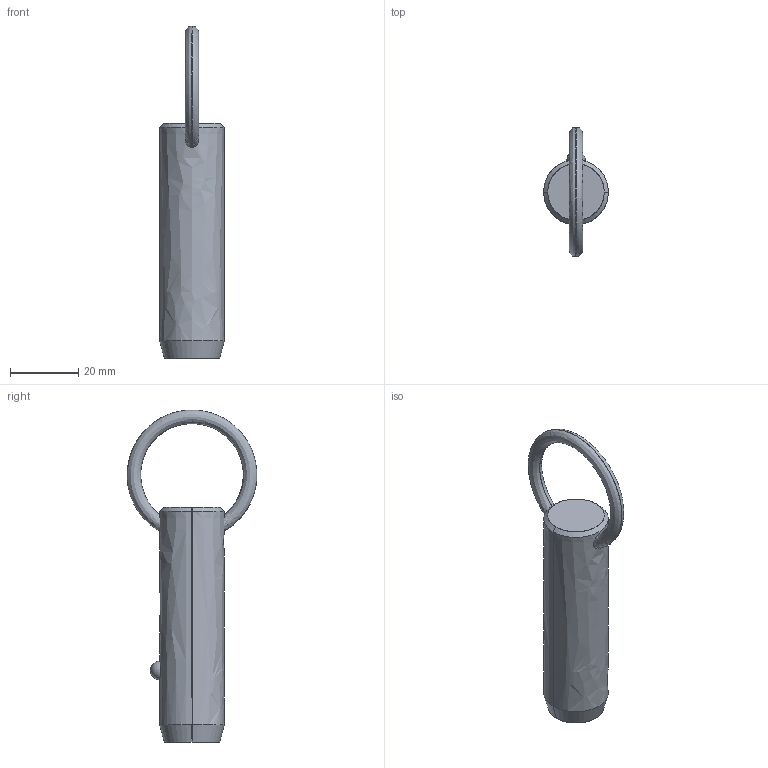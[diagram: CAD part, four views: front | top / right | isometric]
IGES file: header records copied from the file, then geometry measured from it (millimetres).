
Start section: SolidWorks IGES file using analytic representation for surfaces
Global section: file name: C:\Users\liam_\OneDrive\Documents\WORK\Work for WixRoyd\Job Files\J-00019 - Matt Davis CAD Checking\04. CAD Drawings\automotion20190605\P1250.2_v2\P1250.2_v2_20190729_IGES\P1250.075-140.igs; native system: SolidWorks 2017; preprocessor: SolidWorks 2017; author: liam_; date: 190729.234734; units: millimetre
Bounding box: 19 x 38.1 x 97.39 mm (x, y, z)
Surface area: 5639.5 mm2 (no closed solid volume)
Topology: 0 solids, 0 shells, 12 faces, 294 edges, 292 vertices
Faces by surface type: revolution 8, bspline 4
